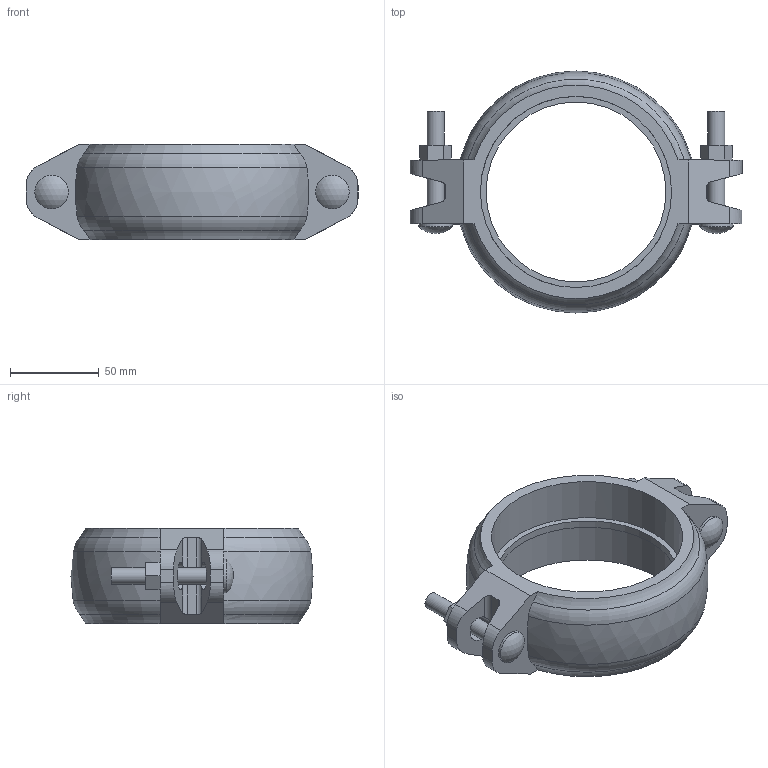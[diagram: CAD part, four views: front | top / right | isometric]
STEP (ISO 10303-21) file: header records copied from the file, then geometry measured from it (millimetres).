
FILE_DESCRIPTION(/* description */ ('VICTAULIC STYLE 009N FIRELOCK EZ RIGID COUPLING','CAx-IF Rec.Pracs.---Representation and Presentation of Product Manufacturing Information (PMI)---4.0---2014-10-13'),/* implementation_level */ '2;1');
FILE_NAME(/* name */ 'C:\Users\Vjadhav\AppData\Roaming\Autodesk\ApplicationPlugins\Victaulic.Temp\A361\Victaulic_FP-FireLock_Coupling Rigid_IR_Style 009N (OGS)_04.0 (108.0) (100).stp',/* time_stamp */ '2022-03-23T18:54:58+05:00',/* author */ ('Vjadhav'),/* organization */ ('Victaulic'),/* preprocessor_version */ 'ST-DEVELOPER v17.2',/* originating_system */ 'Autodesk Inventor 2019',/* authorisation */ '');
FILE_SCHEMA (('AP242_MANAGED_MODEL_BASED_3D_ENGINEERING_MIM_LF { 1 0 10303 442 1 1 4 }'));
Length unit declared in the file: inch
Products named in the file (2): 009N-04.0 (108); 009N-04.25 (108)
Assembly tree (1 placements, depth 2):
  009N-04.0 (108)
    009N-04.25 (108)
Bounding box: 187.45 x 136.65 x 54.1 mm (x, y, z)
Volume: 316634.7 mm3; surface area: 63594.3 mm2
Topology: 1 solids, 1 shells, 91 faces, 267 edges, 182 vertices
Faces by surface type: plane 50, cylinder 29, torus 8, sphere 2, bspline 2
Full cylindrical faces by diameter (mm): 9.525 x4, 19.05 x2, 101.6 x1, 107.95 x2
Entity records: 3479 total; most frequent: CARTESIAN_POINT 823, ORIENTED_EDGE 534, DIRECTION 513, EDGE_CURVE 267, VERTEX_POINT 182, AXIS2_PLACEMENT_3D 182, LINE 149, VECTOR 149
